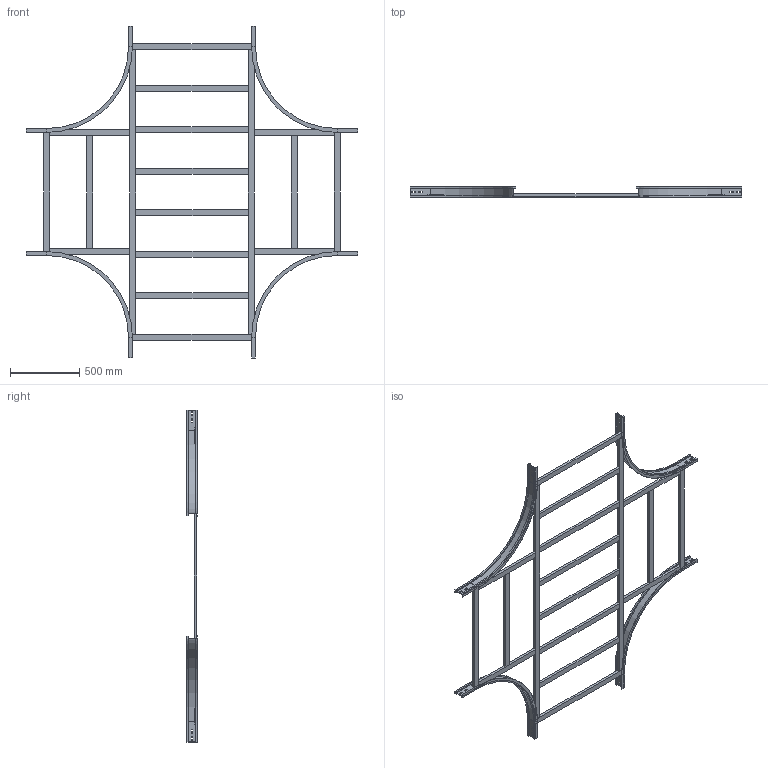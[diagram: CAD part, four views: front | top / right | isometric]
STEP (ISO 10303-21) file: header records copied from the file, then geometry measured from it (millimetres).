
FILE_DESCRIPTION (( 'STEP AP214' ), '1' );
FILE_NAME ('17S6C900.step', '2025-02-21T16:19:26', ( '' ), ( '' ), 'SwSTEP 2.0', 'SolidWorks 2023', '' );
FILE_SCHEMA (( 'AUTOMOTIVE_DESIGN' ));
Length unit declared in the file: millimetre
Products named in the file (7): TRAVERSINO_INTERMEDIO_X_R600+900; TRAVERSINO_VERT_R600; TRAVERSINO_COPPIA_900; 17S6C900; TRAVERSINO_900; TRAVERSINO_LONG._R600+900; LONGH.INTERNO 90°_H75_R600
Assembly tree (22 placements, depth 2):
  17S6C900
    LONGH.INTERNO 90°_H75_R600  x4
    TRAVERSINO_900  x4
    TRAVERSINO_LONG._R600+900  x2
    TRAVERSINO_INTERMEDIO_X_R600+900  x6
    TRAVERSINO_VERT_R600  x4
    TRAVERSINO_COPPIA_900  x2
Bounding box: 2400 x 75 x 2400 mm (x, y, z)
Volume: 15859523.5 mm3; surface area: 3261541.8 mm2
Topology: 22 solids, 22 shells, 324 faces, 744 edges, 464 vertices
Faces by surface type: plane 300, cylinder 24
Entity records: 2660 total; most frequent: DIRECTION 422, CARTESIAN_POINT 421, ORIENTED_EDGE 384, EDGE_CURVE 192, LINE 180, VECTOR 180, AXIS2_PLACEMENT_3D 121, VERTEX_POINT 120
